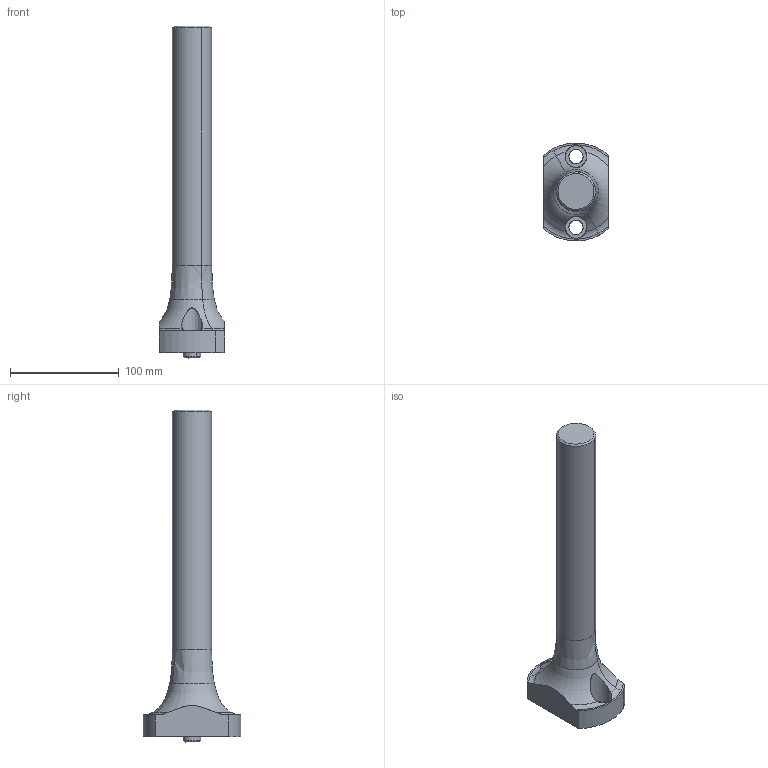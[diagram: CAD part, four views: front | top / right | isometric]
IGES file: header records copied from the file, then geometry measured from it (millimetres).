
Start section: START RECORD GO HERE.
Global section: file name: 722-00+300.igs; native system: DASSAULT SYSTEMES CATIA V5 R20 - www.3ds.com; preprocessor: CATIA Version 5 Release 20 ; author: Utente; organization: NB04-ASUS; date: 20201114.110149; units: millimetre
Bounding box: 60 x 89.93 x 305 mm (x, y, z)
Surface area: 48866.3 mm2 (no closed solid volume)
Topology: 0 solids, 0 shells, 38 faces, 202 edges, 202 vertices
Faces by surface type: revolution 29, plane 9
